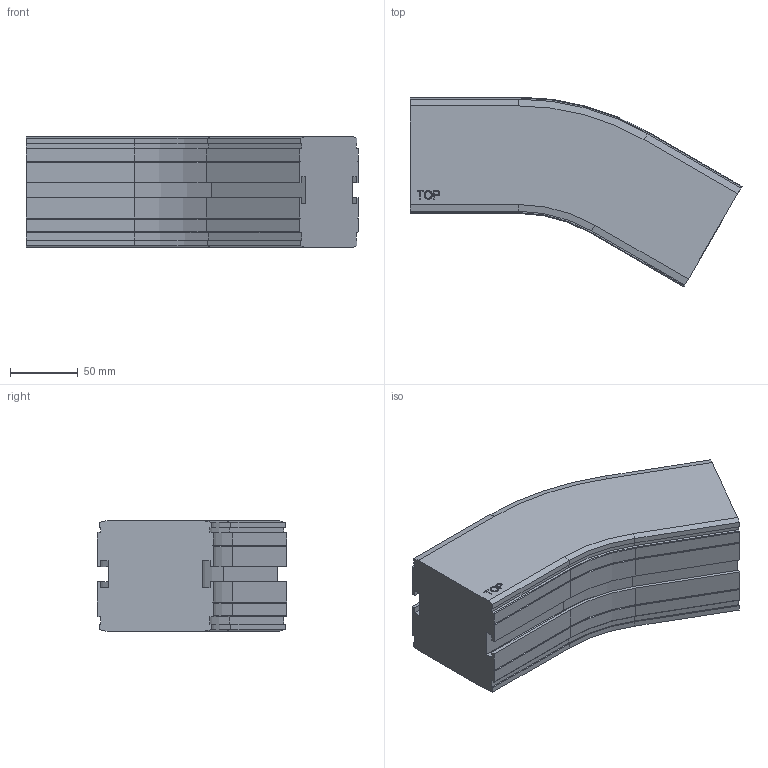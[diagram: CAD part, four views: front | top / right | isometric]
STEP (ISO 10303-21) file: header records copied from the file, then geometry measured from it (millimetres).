
FILE_DESCRIPTION((''),'2;1');
FILE_NAME('C:\Vault Klient\Projekt\Koncept konstruktion\Serie 830 Balk\830-5090.stp','2009-11-27T08:10:59',('Mathias'),(''),'Autodesk Inventor 2010','Autodesk Inventor 2010','');
FILE_SCHEMA(('AUTOMOTIVE_DESIGN { 1 0 10303 214 1 1 1 1 }'));
Length unit declared in the file: millimetre
Products named in the file (1): 830-5090
Bounding box: 245.78 x 140.34 x 81.5 mm (x, y, z)
Volume: 1585543.9 mm3; surface area: 110768.4 mm2
Topology: 1 solids, 1 shells, 169 faces, 446 edges, 284 vertices
Faces by surface type: plane 109, cylinder 30, bspline 14, cone 12, torus 4
Entity records: 5295 total; most frequent: CARTESIAN_POINT 1094, ORIENTED_EDGE 892, DIRECTION 802, EDGE_CURVE 446, VECTOR 346, LINE 346, VERTEX_POINT 284, AXIS2_PLACEMENT_3D 228
